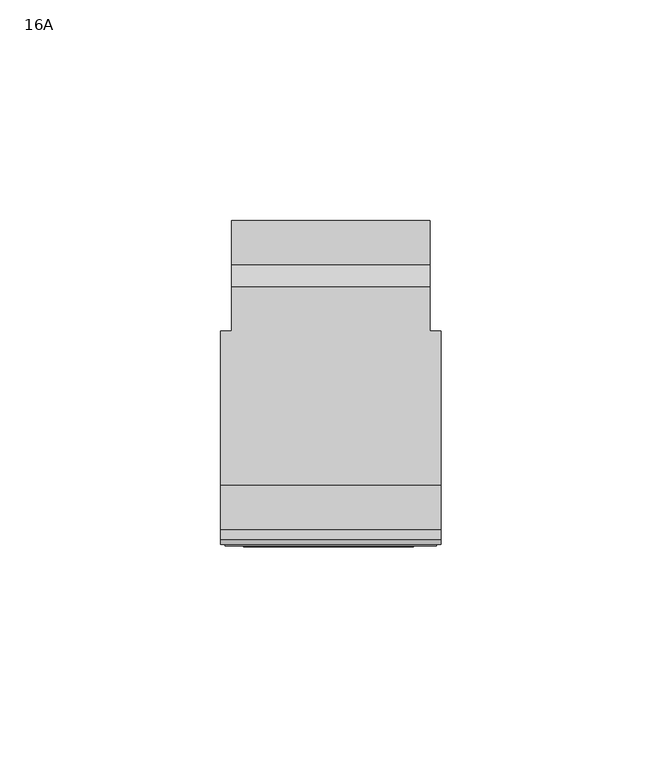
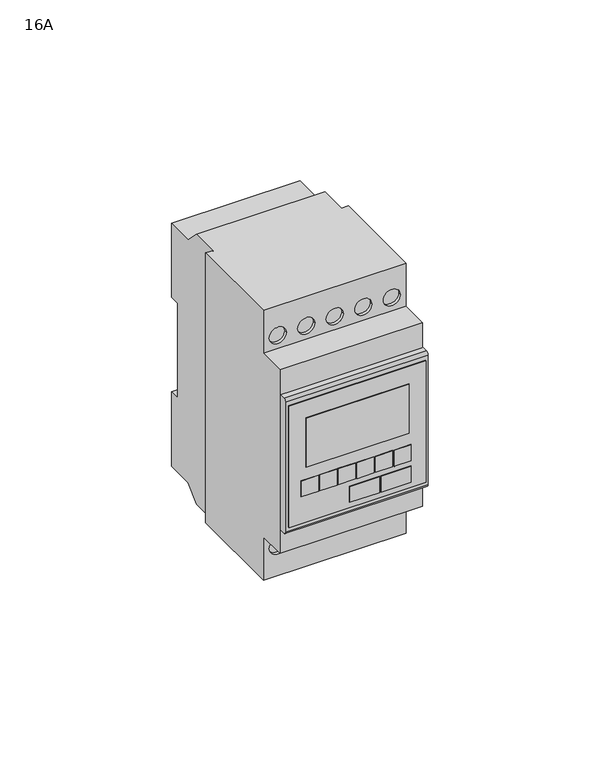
"""IFC4 building model written with IfcOpenShell, lengths in millimetres: proxy geometry, TDM_ЭЛЕКТРОННЫЙ ПРОГРАММИРУЕМЫЙ ТАЙМЕР СЕРИИ ТЭ8А : 16A."""

import ifcopenshell
import ifcopenshell.guid

model = None  # the IFC model being written
_history = None  # IfcOwnerHistory: only IFC2X3 demands one
_inside = {}  # id of a spatial element -> (the spatial element, [elements in it])
_under = {}  # id of a project, library or spatial element -> (it, [spatial elements below it])
_declared = {}  # id of a project -> (the project, [libraries it declares])
_typed = {}  # id of a type object -> (the type object, [elements of that type])
_made_of = {}  # id of a material, layer set ... -> (it, [elements and type objects made of it])


def new_model(schema):
    """Start an empty IFC model of exactly this schema.

    Asked for "IFC4X3", IfcOpenShell would pick the latest addendum, in which some entities
    have other attributes; the version numbers below select the first issue.
    IFC2X3 requires an IfcOwnerHistory on every rooted entity: one is made here for all.
    """
    global model, _history
    if schema == "IFC4X3":
        model = ifcopenshell.file(schema_version=(4, 3, 0, 0))
    else:
        model = ifcopenshell.file(schema=schema)
    _inside.clear()
    _under.clear()
    _declared.clear()
    _typed.clear()
    _made_of.clear()
    _history = None
    if model.schema == "IFC2X3":
        org = make("IfcOrganization", Name="unknown")
        user = make(
            "IfcPersonAndOrganization",
            ThePerson=make("IfcPerson", FamilyName="unknown"),
            TheOrganization=org,
        )
        app = make(
            "IfcApplication",
            ApplicationDeveloper=org,
            Version="unknown",
            ApplicationFullName="unknown",
            ApplicationIdentifier="unknown",
        )
        _history = make(
            "IfcOwnerHistory",
            OwningUser=user,
            OwningApplication=app,
            ChangeAction="ADDED",
            CreationDate=0,
        )
    return model


def make(cls, **values):
    """One entity of the class cls with the attributes given. An attribute that is None is left unset."""
    return model.create_entity(
        cls, **{name: value for name, value in values.items() if value is not None}
    )


def rooted(cls, **values):
    """An entity with a GlobalId (a new one), such as an element, a storey or a relation."""
    return make(cls, GlobalId=ifcopenshell.guid.new(), OwnerHistory=_history, **values)


def si_unit(unit_type, name, prefix=None):
    """IfcSIUnit, for example si_unit("LENGTHUNIT", "METRE", prefix="MILLI")."""
    return make("IfcSIUnit", UnitType=unit_type, Prefix=prefix, Name=name)


def assignment(units):
    """IfcUnitAssignment: the units of a project."""
    return None if units is None else make("IfcUnitAssignment", Units=units)


def point(xyz):
    """IfcCartesianPoint."""
    return None if xyz is None else make("IfcCartesianPoint", Coordinates=xyz)


def direction(xyz):
    """IfcDirection."""
    return None if xyz is None else make("IfcDirection", DirectionRatios=xyz)


def frame(location, z_axis=None, x_axis=None):
    """IfcAxis2Placement3D, a coordinate frame: its origin and axes. An axis left out is left unset."""
    return make(
        "IfcAxis2Placement3D",
        Location=point(location),
        Axis=direction(z_axis),
        RefDirection=direction(x_axis),
    )


def frame_2d(location, x_axis=None):
    """IfcAxis2Placement2D, a coordinate frame in the plane: its origin and x axis."""
    return make(
        "IfcAxis2Placement2D", Location=point(location), RefDirection=direction(x_axis)
    )


def origin():
    """The frame at (0, 0, 0) with its axes left unset."""
    return frame((0.0, 0.0, 0.0))


def place(relative_to, where):
    """IfcLocalPlacement: puts the frame where relative to a parent placement (None: the world)."""
    return make(
        "IfcLocalPlacement", PlacementRelTo=relative_to, RelativePlacement=where
    )


def context(
    kind, dimensions, precision=None, world=None, true_north=None, identifier=None
):
    """IfcGeometricRepresentationContext, for example the 3D "Model" context."""
    return make(
        "IfcGeometricRepresentationContext",
        ContextIdentifier=identifier,
        ContextType=kind,
        CoordinateSpaceDimension=dimensions,
        Precision=precision,
        WorldCoordinateSystem=world,
        TrueNorth=true_north,
    )


def project(units=None, contexts=None):
    """IfcProject with its units and contexts."""
    return rooted(
        "IfcProject",
        Name="project",
        RepresentationContexts=contexts,
        UnitsInContext=assignment(units),
    )


def spatial(cls, under=None, at=None, **own):
    """A site, building, storey or space (cls), placed at a placement, below another one or the project."""
    s = rooted(cls, ObjectPlacement=at, **own)
    if under is not None:
        _under.setdefault(under.id(), (under, []))[1].append(s)
    return s


def polyline(points):
    """IfcPolyline through the points."""
    return make("IfcPolyline", Points=[point(p) for p in points])


def circle_curve(where, radius):
    """IfcCircle in the frame where."""
    return make("IfcCircle", Position=where, Radius=radius)


def trimmed(basis, trim1, trim2, sense, master):
    """IfcTrimmedCurve: the piece of a basis curve between two trims."""
    return make(
        "IfcTrimmedCurve",
        BasisCurve=basis,
        Trim1=trim1,
        Trim2=trim2,
        SenseAgreement=sense,
        MasterRepresentation=master,
    )


def segment(curve, same_sense, transition):
    """IfcCompositeCurveSegment."""
    return make(
        "IfcCompositeCurveSegment",
        Transition=transition,
        SameSense=same_sense,
        ParentCurve=curve,
    )


def composite_curve(segments, self_intersect=None):
    """IfcCompositeCurve: segments joined end to end."""
    return make("IfcCompositeCurve", Segments=segments, SelfIntersect=self_intersect)


def outline(outer, holes=None, kind="AREA"):
    """IfcArbitraryClosedProfileDef: a profile drawn as a closed curve; with holes, ...WithVoids."""
    if holes is None:
        return make("IfcArbitraryClosedProfileDef", ProfileType=kind, OuterCurve=outer)
    return make(
        "IfcArbitraryProfileDefWithVoids",
        ProfileType=kind,
        OuterCurve=outer,
        InnerCurves=holes,
    )


def extrude(swept, where, along, depth):
    """IfcExtrudedAreaSolid: the profile swept, set in the frame where, extruded along a direction by depth."""
    return make(
        "IfcExtrudedAreaSolid",
        SweptArea=swept,
        Position=where,
        ExtrudedDirection=direction(along),
        Depth=depth,
    )


def shape(context_of_items, identifier, shape_type, items):
    """IfcShapeRepresentation: the items that make up one representation, for example the "Body"."""
    return make(
        "IfcShapeRepresentation",
        ContextOfItems=context_of_items,
        RepresentationIdentifier=identifier,
        RepresentationType=shape_type,
        Items=items,
    )


def source(mapping_origin, context_of_items, identifier, shape_type, items):
    """IfcRepresentationMap: a shape defined once, which mapped items show again and again."""
    return make(
        "IfcRepresentationMap",
        MappingOrigin=mapping_origin,
        MappedRepresentation=shape(context_of_items, identifier, shape_type, items),
    )


def transform(
    local_origin,
    x_axis=None,
    y_axis=None,
    z_axis=None,
    scale=None,
    scale2=None,
    scale3=None,
    uniform=True,
):
    """IfcCartesianTransformationOperator3D, or its non-uniform kind. x_axis, y_axis, z_axis: its Axis1, 2, 3."""
    if uniform:
        return make(
            "IfcCartesianTransformationOperator3D",
            Axis1=direction(x_axis),
            Axis2=direction(y_axis),
            LocalOrigin=point(local_origin),
            Scale=scale,
            Axis3=direction(z_axis),
        )
    return make(
        "IfcCartesianTransformationOperator3DnonUniform",
        Axis1=direction(x_axis),
        Axis2=direction(y_axis),
        LocalOrigin=point(local_origin),
        Scale=scale,
        Axis3=direction(z_axis),
        Scale2=scale2,
        Scale3=scale3,
    )


def mapped(mapping_source, mapping_target):
    """IfcMappedItem: shows the shape of a source again, moved by a transform."""
    return make(
        "IfcMappedItem", MappingSource=mapping_source, MappingTarget=mapping_target
    )


def made_of(thing, what):
    """Note that an element or type object is made of a material, layer set ...; save() writes the relation."""
    if what is not None:
        _made_of.setdefault(what.id(), (what, []))[1].append(thing)
    return thing


def element(
    cls,
    number,
    at=None,
    inside=None,
    cuts=None,
    type_object=None,
    material=None,
    context=None,
    identifier="Body",
    shape_type=None,
    held_by="IfcProductDefinitionShape",
    body=None,
    shapes=None,
    **own,
):
    """One element of the class cls, such as IfcWall. Its Tag is "e" and its number.

    at: its placement. inside: the storey or other place that contains it. cuts: it is an
    opening in that element (IfcRelVoidsElement). A single representation is given by context,
    identifier, shape_type and body (its items); several are given by shapes. held_by: the class
    of the entity that holds the representations. save() writes the other relations.
    """
    e = rooted(cls, Tag="e%d" % number, ObjectPlacement=at, **own)
    if body is not None:
        shapes = [shape(context, identifier, shape_type, body)]
    if shapes is not None:
        e.Representation = make(held_by, Representations=shapes)
    if inside is not None:
        _inside.setdefault(inside.id(), (inside, []))[1].append(e)
    if cuts is not None:
        rooted(
            "IfcRelVoidsElement", RelatingBuildingElement=cuts, RelatedOpeningElement=e
        )
    if type_object is not None:
        _typed.setdefault(type_object.id(), (type_object, []))[1].append(e)
    return made_of(e, material)


def aggregate(whole, parts):
    """IfcRelAggregates: a whole, such as a stair, and the parts it consists of."""
    return rooted("IfcRelAggregates", RelatingObject=whole, RelatedObjects=parts)


def save(model, path):
    """Write the relations noted so far, then the file.

    IfcRelAggregates (storeys below a building ...), IfcRelContainedInSpatialStructure (elements
    in a storey), IfcRelDefinesByType, IfcRelAssociatesMaterial and IfcRelDeclares: one each for
    every whole, place, type object, material and project.
    """
    for whole, parts in _under.values():
        aggregate(whole, parts)
    for where, things in _inside.values():
        rooted(
            "IfcRelContainedInSpatialStructure",
            RelatedElements=things,
            RelatingStructure=where,
        )
    for kind, things in _typed.values():
        rooted("IfcRelDefinesByType", RelatedObjects=things, RelatingType=kind)
    for what, things in _made_of.values():
        rooted("IfcRelAssociatesMaterial", RelatedObjects=things, RelatingMaterial=what)
    for by, libraries in _declared.values():
        rooted("IfcRelDeclares", RelatingContext=by, RelatedDefinitions=libraries)
    model.write(path)


def plane_surface(at):
    """IfcPlane: the flat surface through the origin of the frame at, square to its z axis."""
    return make("IfcPlane", Position=at)


def cylinder_surface(at, radius):
    """IfcCylindricalSurface: all points at the distance radius from the z axis of the frame at."""
    return make("IfcCylindricalSurface", Position=at, Radius=radius)


def revolved_surface(curve, axis_point, axis_direction):
    """IfcSurfaceOfRevolution: the curve turned about the line through axis_point along axis_direction."""
    return make(
        "IfcSurfaceOfRevolution",
        SweptCurve=make("IfcArbitraryOpenProfileDef", ProfileType="CURVE", Curve=curve),
        AxisPosition=make("IfcAxis1Placement", Location=point(axis_point), Axis=direction(axis_direction)),
    )


def advanced_brep(points, edges, surfaces, faces):
    """IfcAdvancedBrep: a solid bounded by faces that lie on surfaces and meet in shared edges.

    An edge is (start, end): straight between two places in points (the first is 0);
    or (start, end, curve); or (start, end, curve, False) where it runs against its curve.
    A face is (place in surfaces, loops), or (place, loops, False) where it looks against
    its surface's normal. A loop lists edges by number (the first is 1), with a minus sign
    where the edge is run from its end to its start. The first loop is the outer one.
    """
    corners = [point(p) for p in points]
    vertices = [make("IfcVertexPoint", VertexGeometry=c) for c in corners]
    made = []
    for start, end, *more in edges:
        made.append(
            make(
                "IfcEdgeCurve",
                EdgeStart=vertices[start],
                EdgeEnd=vertices[end],
                EdgeGeometry=more[0] if more else make("IfcPolyline", Points=[corners[start], corners[end]]),
                SameSense=more[1] if len(more) > 1 else True,
            )
        )
    hull = []
    for where, loops, *sense in faces:
        bounds = []
        for j, loop in enumerate(loops):
            ring = [make("IfcOrientedEdge", EdgeElement=made[abs(k) - 1], Orientation=k > 0) for k in loop]
            bounds.append(
                make(
                    "IfcFaceOuterBound" if j == 0 else "IfcFaceBound",
                    Bound=make("IfcEdgeLoop", EdgeList=ring),
                    Orientation=True,
                )
            )
        hull.append(make("IfcAdvancedFace", Bounds=bounds, FaceSurface=surfaces[where], SameSense=sense[0] if sense else True))
    return make("IfcAdvancedBrep", Outer=make("IfcClosedShell", CfsFaces=hull))


def proxy_16a_57aace03(model_context):
    return source(origin(), model_context, "Body", "SolidModel", [
        extrude(outline(composite_curve([segment(trimmed(circle_curve(frame_2d((38.991615, -20.0)), 3.0), [point((38.991615, -23.0))], [point((38.991615, -17.0))], False, "CARTESIAN"), True, "CONTINUOUS"), segment(trimmed(circle_curve(frame_2d((38.991615, -20.0)), 3.0), [point((38.991615, -17.0))], [point((38.991615, -23.0))], False, "CARTESIAN"), True, "CONTINUOUS")], self_intersect=False)), frame((0.0, -22.8714563, 0.0), z_axis=(0.0, 1.0, 0.0), x_axis=(0.0, 0.0, 1.0)), (0.0, 0.0, 1.0), 2.9120848),
        extrude(outline(composite_curve([segment(trimmed(circle_curve(frame_2d((38.991615, -10.0)), 3.0), [point((38.991615, -13.0))], [point((38.991615, -7.0))], False, "CARTESIAN"), True, "CONTINUOUS"), segment(trimmed(circle_curve(frame_2d((38.991615, -10.0)), 3.0), [point((38.991615, -7.0))], [point((38.991615, -13.0))], False, "CARTESIAN"), True, "CONTINUOUS")], self_intersect=False)), frame((0.0, -22.8714563, 0.0), z_axis=(0.0, 1.0, 0.0), x_axis=(0.0, 0.0, 1.0)), (0.0, 0.0, 1.0), 2.9120848),
        extrude(outline(composite_curve([segment(trimmed(circle_curve(frame_2d((38.991615, 0.0)), 3.0), [point((38.991615, -3.0))], [point((38.991615, 3.0))], False, "CARTESIAN"), True, "CONTINUOUS"), segment(trimmed(circle_curve(frame_2d((38.991615, 0.0)), 3.0), [point((38.991615, 3.0))], [point((38.991615, -3.0))], False, "CARTESIAN"), True, "CONTINUOUS")], self_intersect=False)), frame((0.0, -22.8714563, 0.0), z_axis=(0.0, 1.0, 0.0), x_axis=(0.0, 0.0, 1.0)), (0.0, 0.0, 1.0), 2.9120848),
        extrude(outline(composite_curve([segment(trimmed(circle_curve(frame_2d((38.991615, 10.0)), 3.0), [point((38.991615, 7.0))], [point((38.991615, 13.0))], False, "CARTESIAN"), True, "CONTINUOUS"), segment(trimmed(circle_curve(frame_2d((38.991615, 10.0)), 3.0), [point((38.991615, 13.0))], [point((38.991615, 7.0))], False, "CARTESIAN"), True, "CONTINUOUS")], self_intersect=False)), frame((0.0, -22.8714563, 0.0), z_axis=(0.0, 1.0, 0.0), x_axis=(0.0, 0.0, 1.0)), (0.0, 0.0, 1.0), 2.9120848),
        extrude(outline(composite_curve([segment(trimmed(circle_curve(frame_2d((38.991615, 20.0)), 3.0), [point((38.991615, 17.0))], [point((38.991615, 23.0))], False, "CARTESIAN"), True, "CONTINUOUS"), segment(trimmed(circle_curve(frame_2d((38.991615, 20.0)), 3.0), [point((38.991615, 23.0))], [point((38.991615, 17.0))], False, "CARTESIAN"), True, "CONTINUOUS")], self_intersect=False)), frame((0.0, -22.8714563, 0.0), z_axis=(0.0, 1.0, 0.0), x_axis=(0.0, 0.0, 1.0)), (0.0, 0.0, 1.0), 2.9120848),
        extrude(outline(composite_curve([segment(trimmed(circle_curve(frame_2d((-38.991615, 20.0)), 3.0), [point((-38.991615, 23.0))], [point((-38.991615, 17.0))], False, "CARTESIAN"), True, "CONTINUOUS"), segment(trimmed(circle_curve(frame_2d((-38.991615, 20.0)), 3.0), [point((-38.991615, 17.0))], [point((-38.991615, 23.0))], False, "CARTESIAN"), True, "CONTINUOUS")], self_intersect=False)), frame((0.0, -22.8714563, 0.0), z_axis=(0.0, 1.0, 0.0), x_axis=(0.0, 0.0, 1.0)), (0.0, 0.0, 1.0), 2.9120848),
        extrude(outline(composite_curve([segment(trimmed(circle_curve(frame_2d((-38.991615, 10.0)), 3.0), [point((-38.991615, 7.0))], [point((-38.991615, 13.0))], False, "CARTESIAN"), True, "CONTINUOUS"), segment(trimmed(circle_curve(frame_2d((-38.991615, 10.0)), 3.0), [point((-38.991615, 13.0))], [point((-38.991615, 7.0))], False, "CARTESIAN"), True, "CONTINUOUS")], self_intersect=False)), frame((0.0, -22.8714563, 0.0), z_axis=(0.0, 1.0, 0.0), x_axis=(0.0, 0.0, 1.0)), (0.0, 0.0, 1.0), 2.9120848),
        extrude(outline(composite_curve([segment(trimmed(circle_curve(frame_2d((-38.991615, 0.0)), 3.0), [point((-38.991615, -3.0))], [point((-38.991615, 3.0))], False, "CARTESIAN"), True, "CONTINUOUS"), segment(trimmed(circle_curve(frame_2d((-38.991615, 0.0)), 3.0), [point((-38.991615, 3.0))], [point((-38.991615, -3.0))], False, "CARTESIAN"), True, "CONTINUOUS")], self_intersect=False)), frame((0.0, -22.8714563, 0.0), z_axis=(0.0, 1.0, 0.0), x_axis=(0.0, 0.0, 1.0)), (0.0, 0.0, 1.0), 2.9120848),
        extrude(outline(composite_curve([segment(trimmed(circle_curve(frame_2d((-38.991615, -10.0)), 3.0), [point((-38.991615, -13.0))], [point((-38.991615, -7.0))], False, "CARTESIAN"), True, "CONTINUOUS"), segment(trimmed(circle_curve(frame_2d((-38.991615, -10.0)), 3.0), [point((-38.991615, -7.0))], [point((-38.991615, -13.0))], False, "CARTESIAN"), True, "CONTINUOUS")], self_intersect=False)), frame((0.0, -22.8714563, 0.0), z_axis=(0.0, 1.0, 0.0), x_axis=(0.0, 0.0, 1.0)), (0.0, 0.0, 1.0), 2.9120848),
        extrude(outline(composite_curve([segment(trimmed(circle_curve(frame_2d((-38.991615, -20.0)), 3.0), [point((-38.991615, -23.0))], [point((-38.991615, -17.0))], False, "CARTESIAN"), True, "CONTINUOUS"), segment(trimmed(circle_curve(frame_2d((-38.991615, -20.0)), 3.0), [point((-38.991615, -17.0))], [point((-38.991615, -23.0))], False, "CARTESIAN"), True, "CONTINUOUS")], self_intersect=False)), frame((0.0, -22.8714563, 0.0), z_axis=(0.0, 1.0, 0.0), x_axis=(0.0, 0.0, 1.0)), (0.0, 0.0, 1.0), 2.9120848),
        advanced_brep(
        [(22.5, 11.0, -50.0), (22.5, 21.0, -50.0), (22.5, 26.0, -45.0), (22.5, 36.0, -45.0), (22.5, 36.0, -17.5), (22.5, 32.5, -17.5), (22.5, 32.5, 17.5), (22.5, 36.0, 17.5), (22.5, 36.0, 45.0), (22.5, 26.0, 45.0), (22.5, 21.0, 50.0), (22.5, 11.0, 50.0), (-22.5, 11.0, 50.0), (-22.5, 21.0, 50.0), (-22.5, 26.0, 45.0), (-22.5, 36.0, 45.0), (-22.5, 36.0, 17.5), (-22.5, 32.5, 17.5), (-22.5, 32.5, -17.5), (-22.5, 36.0, -17.5), (-22.5, 36.0, -45.0), (-22.5, 26.0, -45.0), (-22.5, 21.0, -50.0), (-22.5, 11.0, -50.0), (-25.0, 11.0, 50.0), (-25.0, 11.0, -50.0), (-25.0, -24.0, -50.0), (-25.0, -24.0, -34.0), (-25.0, -34.0, -34.0), (-25.0, -34.0, 34.0), (-25.0, -24.0, 34.0), (-25.0, -24.0, 50.0), (25.0, 11.0, 50.0), (25.0, -24.0, 50.0), (25.0, -24.0, 34.0), (25.0, -34.0, 34.0), (25.0, -34.0, -34.0), (25.0, -24.0, -34.0), (25.0, -24.0, -50.0), (25.0, 11.0, -50.0), (3.0, -24.0, -38.991615), (-3.0, -24.0, -38.991615), (13.0, -24.0, -38.991615), (7.0, -24.0, -38.991615), (23.0, -24.0, -38.991615), (17.0, -24.0, -38.991615), (-13.0, -24.0, -38.991615), (-7.0, -24.0, -38.991615), (-23.0, -24.0, -38.991615), (-17.0, -24.0, -38.991615), (3.0, -24.0, 38.991615), (-3.0, -24.0, 38.991615), (13.0, -24.0, 38.991615), (7.0, -24.0, 38.991615), (23.0, -24.0, 38.991615), (17.0, -24.0, 38.991615), (-13.0, -24.0, 38.991615), (-7.0, -24.0, 38.991615), (-23.0, -24.0, 38.991615), (-17.0, -24.0, 38.991615), (-3.0, -19.9593715, 38.991615), (3.0, -19.9593715, 38.991615), (7.0, -19.9593715, 38.991615), (13.0, -19.9593715, 38.991615), (17.0, -19.9593715, 38.991615), (23.0, -19.9593715, 38.991615), (-7.0, -19.9593715, 38.991615), (-13.0, -19.9593715, 38.991615), (-17.0, -19.9593715, 38.991615), (-23.0, -19.9593715, 38.991615), (-3.0, -19.9593715, -38.991615), (3.0, -19.9593715, -38.991615), (7.0, -19.9593715, -38.991615), (13.0, -19.9593715, -38.991615), (17.0, -19.9593715, -38.991615), (23.0, -19.9593715, -38.991615), (-7.0, -19.9593715, -38.991615), (-13.0, -19.9593715, -38.991615), (-17.0, -19.9593715, -38.991615), (-23.0, -19.9593715, -38.991615)],
        [
            (0, 1),
            (1, 2),
            (2, 3),
            (3, 4),
            (4, 5),
            (5, 6),
            (6, 7),
            (7, 8),
            (8, 9),
            (9, 10),
            (10, 11),
            (11, 0),
            (12, 13),
            (13, 14),
            (14, 15),
            (15, 16),
            (16, 17),
            (17, 18),
            (18, 19),
            (19, 20),
            (20, 21),
            (21, 22),
            (22, 23),
            (23, 12),
            (24, 25),
            (25, 26),
            (26, 27),
            (27, 28),
            (28, 29),
            (29, 30),
            (30, 31),
            (31, 24),
            (32, 33),
            (33, 34),
            (34, 35),
            (35, 36),
            (36, 37),
            (37, 38),
            (38, 39),
            (39, 32),
            (0, 39),
            (38, 26),
            (25, 23),
            (22, 1),
            (21, 2),
            (20, 3),
            (19, 4),
            (18, 5),
            (17, 6),
            (16, 7),
            (15, 8),
            (14, 9),
            (13, 10),
            (12, 24),
            (31, 33),
            (32, 11),
            (37, 27),
            (40, 41, circle_curve(frame((0.0, -24.0, -38.991615), z_axis=(0.0, 1.0, 0.0), x_axis=(1.0, 0.0, 0.0)), 3.0)),
            (41, 40, circle_curve(frame((0.0, -24.0, -38.991615), z_axis=(0.0, 1.0, 0.0), x_axis=(1.0, 0.0, 0.0)), 3.0)),
            (42, 43, circle_curve(frame((10.0, -24.0, -38.991615), z_axis=(0.0, 1.0, 0.0), x_axis=(1.0, 0.0, 0.0)), 3.0)),
            (43, 42, circle_curve(frame((10.0, -24.0, -38.991615), z_axis=(0.0, 1.0, 0.0), x_axis=(1.0, 0.0, 0.0)), 3.0)),
            (44, 45, circle_curve(frame((20.0, -24.0, -38.991615), z_axis=(0.0, 1.0, 0.0), x_axis=(1.0, 0.0, 0.0)), 3.0)),
            (45, 44, circle_curve(frame((20.0, -24.0, -38.991615), z_axis=(0.0, 1.0, 0.0), x_axis=(1.0, 0.0, 0.0)), 3.0)),
            (46, 47, circle_curve(frame((-10.0, -24.0, -38.991615), z_axis=(0.0, 1.0, 0.0), x_axis=(-1.0, 0.0, 0.0)), 3.0)),
            (47, 46, circle_curve(frame((-10.0, -24.0, -38.991615), z_axis=(0.0, 1.0, 0.0), x_axis=(-1.0, 0.0, 0.0)), 3.0)),
            (48, 49, circle_curve(frame((-20.0, -24.0, -38.991615), z_axis=(0.0, 1.0, 0.0), x_axis=(-1.0, 0.0, 0.0)), 3.0)),
            (49, 48, circle_curve(frame((-20.0, -24.0, -38.991615), z_axis=(0.0, 1.0, 0.0), x_axis=(-1.0, 0.0, 0.0)), 3.0)),
            (36, 28),
            (35, 29),
            (34, 30),
            (50, 51, circle_curve(frame((0.0, -24.0, 38.991615), z_axis=(0.0, 1.0, 0.0), x_axis=(1.0, 0.0, 0.0)), 3.0)),
            (51, 50, circle_curve(frame((0.0, -24.0, 38.991615), z_axis=(0.0, 1.0, 0.0), x_axis=(1.0, 0.0, 0.0)), 3.0)),
            (52, 53, circle_curve(frame((10.0, -24.0, 38.991615), z_axis=(0.0, 1.0, 0.0), x_axis=(1.0, 0.0, 0.0)), 3.0)),
            (53, 52, circle_curve(frame((10.0, -24.0, 38.991615), z_axis=(0.0, 1.0, 0.0), x_axis=(1.0, 0.0, 0.0)), 3.0)),
            (54, 55, circle_curve(frame((20.0, -24.0, 38.991615), z_axis=(0.0, 1.0, 0.0), x_axis=(1.0, 0.0, 0.0)), 3.0)),
            (55, 54, circle_curve(frame((20.0, -24.0, 38.991615), z_axis=(0.0, 1.0, 0.0), x_axis=(1.0, 0.0, 0.0)), 3.0)),
            (56, 57, circle_curve(frame((-10.0, -24.0, 38.991615), z_axis=(0.0, 1.0, 0.0), x_axis=(-1.0, 0.0, 0.0)), 3.0)),
            (57, 56, circle_curve(frame((-10.0, -24.0, 38.991615), z_axis=(0.0, 1.0, 0.0), x_axis=(-1.0, 0.0, 0.0)), 3.0)),
            (58, 59, circle_curve(frame((-20.0, -24.0, 38.991615), z_axis=(0.0, 1.0, 0.0), x_axis=(-1.0, 0.0, 0.0)), 3.0)),
            (59, 58, circle_curve(frame((-20.0, -24.0, 38.991615), z_axis=(0.0, 1.0, 0.0), x_axis=(-1.0, 0.0, 0.0)), 3.0)),
            (60, 61, circle_curve(frame((0.0, -19.9593715, 38.991615), z_axis=(0.0, -1.0, 0.0), x_axis=(1.0, 0.0, 0.0)), 3.0)),
            (61, 60, circle_curve(frame((0.0, -19.9593715, 38.991615), z_axis=(0.0, -1.0, 0.0), x_axis=(1.0, 0.0, 0.0)), 3.0)),
            (62, 63, circle_curve(frame((10.0, -19.9593715, 38.991615), z_axis=(0.0, -1.0, 0.0), x_axis=(1.0, 0.0, 0.0)), 3.0)),
            (63, 62, circle_curve(frame((10.0, -19.9593715, 38.991615), z_axis=(0.0, -1.0, 0.0), x_axis=(1.0, 0.0, 0.0)), 3.0)),
            (64, 65, circle_curve(frame((20.0, -19.9593715, 38.991615), z_axis=(0.0, -1.0, 0.0), x_axis=(1.0, 0.0, 0.0)), 3.0)),
            (65, 64, circle_curve(frame((20.0, -19.9593715, 38.991615), z_axis=(0.0, -1.0, 0.0), x_axis=(1.0, 0.0, 0.0)), 3.0)),
            (66, 67, circle_curve(frame((-10.0, -19.9593715, 38.991615), z_axis=(0.0, -1.0, 0.0), x_axis=(-1.0, 0.0, 0.0)), 3.0)),
            (67, 66, circle_curve(frame((-10.0, -19.9593715, 38.991615), z_axis=(0.0, -1.0, 0.0), x_axis=(-1.0, 0.0, 0.0)), 3.0)),
            (68, 69, circle_curve(frame((-20.0, -19.9593715, 38.991615), z_axis=(0.0, -1.0, 0.0), x_axis=(-1.0, 0.0, 0.0)), 3.0)),
            (69, 68, circle_curve(frame((-20.0, -19.9593715, 38.991615), z_axis=(0.0, -1.0, 0.0), x_axis=(-1.0, 0.0, 0.0)), 3.0)),
            (70, 71, circle_curve(frame((0.0, -19.9593715, -38.991615), z_axis=(0.0, -1.0, 0.0), x_axis=(1.0, 0.0, 0.0)), 3.0)),
            (71, 70, circle_curve(frame((0.0, -19.9593715, -38.991615), z_axis=(0.0, -1.0, 0.0), x_axis=(1.0, 0.0, 0.0)), 3.0)),
            (72, 73, circle_curve(frame((10.0, -19.9593715, -38.991615), z_axis=(0.0, -1.0, 0.0), x_axis=(1.0, 0.0, 0.0)), 3.0)),
            (73, 72, circle_curve(frame((10.0, -19.9593715, -38.991615), z_axis=(0.0, -1.0, 0.0), x_axis=(1.0, 0.0, 0.0)), 3.0)),
            (74, 75, circle_curve(frame((20.0, -19.9593715, -38.991615), z_axis=(0.0, -1.0, 0.0), x_axis=(1.0, 0.0, 0.0)), 3.0)),
            (75, 74, circle_curve(frame((20.0, -19.9593715, -38.991615), z_axis=(0.0, -1.0, 0.0), x_axis=(1.0, 0.0, 0.0)), 3.0)),
            (76, 77, circle_curve(frame((-10.0, -19.9593715, -38.991615), z_axis=(0.0, -1.0, 0.0), x_axis=(-1.0, 0.0, 0.0)), 3.0)),
            (77, 76, circle_curve(frame((-10.0, -19.9593715, -38.991615), z_axis=(0.0, -1.0, 0.0), x_axis=(-1.0, 0.0, 0.0)), 3.0)),
            (78, 79, circle_curve(frame((-20.0, -19.9593715, -38.991615), z_axis=(0.0, -1.0, 0.0), x_axis=(-1.0, 0.0, 0.0)), 3.0)),
            (79, 78, circle_curve(frame((-20.0, -19.9593715, -38.991615), z_axis=(0.0, -1.0, 0.0), x_axis=(-1.0, 0.0, 0.0)), 3.0)),
            (60, 51),
            (50, 61),
            (62, 53),
            (52, 63),
            (64, 55),
            (54, 65),
            (66, 57),
            (56, 67),
            (68, 59),
            (58, 69),
            (70, 41),
            (40, 71),
            (72, 43),
            (42, 73),
            (74, 45),
            (44, 75),
            (76, 47),
            (46, 77),
            (78, 49),
            (48, 79),
        ],
        [
            plane_surface(frame((22.5, 11.0, 50.0), z_axis=(1.0, 0.0, 0.0), x_axis=(0.0, 0.0, -1.0))),
            plane_surface(frame((-22.5, 11.0, 50.0), z_axis=(-1.0, 0.0, 0.0), x_axis=(0.0, 0.0, 1.0))),
            plane_surface(frame((-25.0, 11.0, -50.0), z_axis=(-1.0, 0.0, 0.0), x_axis=(0.0, 0.0, -1.0))),
            plane_surface(frame((25.0, 11.0, -50.0), z_axis=(1.0, 0.0, 0.0), x_axis=(0.0, 0.0, 1.0))),
            plane_surface(frame((22.5, 11.0, -50.0), z_axis=(0.0, 0.0, -1.0), x_axis=(-1.0, 0.0, 0.0))),
            plane_surface(frame((22.5, 21.0, -50.0), z_axis=(0.0, 0.7071067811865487, -0.7071067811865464), x_axis=(-1.0, 0.0, 0.0))),
            plane_surface(frame((22.5, 26.0, -45.0), z_axis=(0.0, 0.0, -1.0), x_axis=(-1.0, 0.0, 0.0))),
            plane_surface(frame((22.5, 36.0, -45.0), z_axis=(0.0, 1.0, 0.0), x_axis=(-1.0, 0.0, 0.0))),
            plane_surface(frame((22.5, 36.0, -17.5), z_axis=(0.0, 0.0, 1.0), x_axis=(-1.0, 0.0, 0.0))),
            plane_surface(frame((22.5, 32.5, -17.5), z_axis=(0.0, 1.0, 0.0), x_axis=(-1.0, 0.0, 0.0))),
            plane_surface(frame((22.5, 32.5, 17.5), z_axis=(0.0, 0.0, -1.0), x_axis=(-1.0, 0.0, 0.0))),
            plane_surface(frame((22.5, 36.0, 17.5), z_axis=(0.0, 1.0, 0.0), x_axis=(-1.0, 0.0, 0.0))),
            plane_surface(frame((22.5, 36.0, 45.0), z_axis=(0.0, 0.0, 1.0), x_axis=(-1.0, 0.0, 0.0))),
            plane_surface(frame((22.5, 26.0, 45.0), z_axis=(0.0, 0.7071067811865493, 0.7071067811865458), x_axis=(-1.0, 0.0, 0.0))),
            plane_surface(frame((22.5, 21.0, 50.0), z_axis=(0.0, 0.0, 1.0), x_axis=(-1.0, 0.0, 0.0))),
            plane_surface(frame((-25.0, 11.0, 50.0), z_axis=(0.0, 1.0, 0.0), x_axis=(1.0, 0.0, 0.0))),
            plane_surface(frame((-25.0, -24.0, -50.0), z_axis=(0.0, -1.0, 0.0), x_axis=(1.0, 0.0, 0.0))),
            plane_surface(frame((-25.0, -24.0, -34.0), z_axis=(0.0, 0.0, -1.0), x_axis=(1.0, 0.0, 0.0))),
            plane_surface(frame((-25.0, -34.0, -34.0), z_axis=(0.0, -1.0, 0.0), x_axis=(1.0, 0.0, 0.0))),
            plane_surface(frame((-25.0, -34.0, 34.0), z_axis=(0.0, 0.0, 1.0), x_axis=(1.0, 0.0, 0.0))),
            plane_surface(frame((-25.0, -24.0, 34.0), z_axis=(0.0, -1.0, 0.0), x_axis=(1.0, 0.0, 0.0))),
            plane_surface(frame((3.0, -19.9593715, 38.991615), z_axis=(0.0, -1.0, 0.0), x_axis=(0.0, 0.0, -1.0))),
            revolved_surface(polyline([(3.0, -24.0, 38.991615), (3.0, -19.9593715, 38.991615)]), (0.0, -19.9593715, 38.991615), (0.0, -1.0, 0.0)),
            revolved_surface(polyline([(13.0, -24.0, 38.991615), (13.0, -19.9593715, 38.991615)]), (10.0, 0.0, 38.991615), (0.0, -1.0, 0.0)),
            revolved_surface(polyline([(23.0, -24.0, 38.991615), (23.0, -19.9593715, 38.991615)]), (20.0, 0.0, 38.991615), (0.0, -1.0, 0.0)),
            revolved_surface(polyline([(-13.0, -24.0, 38.991615), (-13.0, -19.9593715, 38.991615)]), (-10.0, 0.0, 38.991615), (0.0, -1.0, 0.0)),
            revolved_surface(polyline([(-23.0, -24.0, 38.991615), (-23.0, -19.9593715, 38.991615)]), (-20.0, 0.0, 38.991615), (0.0, -1.0, 0.0)),
            revolved_surface(polyline([(3.0, -24.0, -38.991615), (3.0, -19.9593715, -38.991615)]), (0.0, 0.0, -38.991615), (0.0, -1.0, 0.0)),
            revolved_surface(polyline([(13.0, -24.0, -38.991615), (13.0, -19.9593715, -38.991615)]), (10.0, 0.0, -38.991615), (0.0, -1.0, 0.0)),
            revolved_surface(polyline([(23.0, -24.0, -38.991615), (23.0, -19.9593715, -38.991615)]), (20.0, 0.0, -38.991615), (0.0, -1.0, 0.0)),
            revolved_surface(polyline([(-13.0, -24.0, -38.991615), (-13.0, -19.9593715, -38.991615)]), (-10.0, 0.0, -38.991615), (0.0, -1.0, 0.0)),
            revolved_surface(polyline([(-23.0, -24.0, -38.991615), (-23.0, -19.9593715, -38.991615)]), (-20.0, 0.0, -38.991615), (0.0, -1.0, 0.0)),
        ],
        [
            (0, [[1, 2, 3, 4, 5, 6, 7, 8, 9, 10, 11, 12]]),
            (1, [[13, 14, 15, 16, 17, 18, 19, 20, 21, 22, 23, 24]]),
            (2, [[25, 26, 27, 28, 29, 30, 31, 32]]),
            (3, [[33, 34, 35, 36, 37, 38, 39, 40]]),
            (4, [[-1, 41, -39, 42, -26, 43, -23, 44]]),
            (5, [[-2, -44, -22, 45]]),
            (6, [[-3, -45, -21, 46]]),
            (7, [[-4, -46, -20, 47]]),
            (8, [[-5, -47, -19, 48]]),
            (9, [[-6, -48, -18, 49]]),
            (10, [[-7, -49, -17, 50]]),
            (11, [[-8, -50, -16, 51]]),
            (12, [[-9, -51, -15, 52]]),
            (13, [[-10, -52, -14, 53]]),
            (14, [[-11, -53, -13, 54, -32, 55, -33, 56]]),
            (15, [[-25, -54, -24, -43]]),
            (15, [[-40, -41, -12, -56]]),
            (16, [[-27, -42, -38, 57], [58, 59], [60, 61], [62, 63], [64, 65], [66, 67]]),
            (17, [[-28, -57, -37, 68]]),
            (18, [[-29, -68, -36, 69]]),
            (19, [[-30, -69, -35, 70]]),
            (20, [[-31, -70, -34, -55], [71, 72], [73, 74], [75, 76], [77, 78], [79, 80]]),
            (21, [[81, 82]]),
            (21, [[83, 84]]),
            (21, [[85, 86]]),
            (21, [[87, 88]]),
            (21, [[89, 90]]),
            (21, [[91, 92]]),
            (21, [[93, 94]]),
            (21, [[95, 96]]),
            (21, [[97, 98]]),
            (21, [[99, 100]]),
            (22, [[-81, 101, -71, 102]]),
            (22, [[-82, -102, -72, -101]]),
            (23, [[-83, 103, -73, 104]]),
            (23, [[-84, -104, -74, -103]]),
            (24, [[-85, 105, -75, 106]]),
            (24, [[-86, -106, -76, -105]]),
            (25, [[-87, 107, -77, 108]]),
            (25, [[-88, -108, -78, -107]]),
            (26, [[-89, 109, -79, 110]]),
            (26, [[-90, -110, -80, -109]]),
            (27, [[-91, 111, -58, 112]]),
            (27, [[-92, -112, -59, -111]]),
            (28, [[-93, 113, -60, 114]]),
            (28, [[-94, -114, -61, -113]]),
            (29, [[-95, 115, -62, 116]]),
            (29, [[-96, -116, -63, -115]]),
            (30, [[-97, 117, -64, 118]]),
            (30, [[-98, -118, -65, -117]]),
            (31, [[-99, 119, -66, 120]]),
            (31, [[-100, -120, -67, -119]]),
        ],
    ),
        advanced_brep(
        [(-25.0, -34.0, 25.0), (-25.0, -34.0, -25.0), (-25.0, -36.4012318, -25.0), (-25.0, -37.4012318, -24.0), (-25.0, -37.4012318, 24.0), (-25.0, -36.4012318, 25.0), (25.0, -34.0, 25.0), (25.0, -36.4012318, 25.0), (25.0, -37.4012318, 24.0), (25.0, -37.4012318, -24.0), (25.0, -36.4012318, -25.0), (25.0, -34.0, -25.0), (24.0, -37.7818014, 22.5), (-24.0, -37.7818014, 22.5), (-24.0, -37.7818014, -22.5), (24.0, -37.7818014, -22.5), (-6.75, -37.7818014, -12.6110725), (-6.75, -37.7818014, -6.6110725), (-0.75, -37.7818014, -6.6110725), (-0.75, -37.7818014, -12.6110725), (-13.25, -37.7818014, -12.6110725), (-13.25, -37.7818014, -6.6110725), (-7.25, -37.7818014, -6.6110725), (-7.25, -37.7818014, -12.6110725), (-19.75, -37.7818014, -12.6110725), (-19.75, -37.7818014, -6.6110725), (-13.75, -37.7818014, -6.6110725), (-13.75, -37.7818014, -12.6110725), (-0.25, -37.7818014, -6.6110725), (5.75, -37.7818014, -6.6110725), (5.75, -37.7818014, -12.6110725), (-0.25, -37.7818014, -12.6110725), (6.25, -37.7818014, -6.6110725), (12.25, -37.7818014, -6.6110725), (12.25, -37.7818014, -12.6110725), (6.25, -37.7818014, -12.6110725), (12.75, -37.7818014, -6.6110725), (18.75, -37.7818014, -6.6110725), (18.75, -37.7818014, -12.6110725), (12.75, -37.7818014, -12.6110725), (8.25, -37.7818014, -14.6110725), (18.75, -37.7818014, -14.6110725), (18.75, -37.7818014, -20.6110725), (8.25, -37.7818014, -20.6110725), (-2.75, -37.7818014, -14.6110725), (7.75, -37.7818014, -14.6110725), (7.75, -37.7818014, -20.6110725), (-2.75, -37.7818014, -20.6110725), (-18.0, -37.7818014, 16.0149518), (18.0, -37.7818014, 16.0149518), (18.0, -37.7818014, -2.1537566), (-18.0, -37.7818014, -2.1537566), (24.0, -37.4012318, 22.5), (-24.0, -37.4012318, 22.5), (-24.0, -37.4012318, -22.5), (24.0, -37.4012318, -22.5), (-6.75, -38.0, -6.6110725), (-6.75, -38.0, -12.6110725), (-0.75, -38.0, -12.6110725), (-0.75, -38.0, -6.6110725), (-13.25, -38.0, -6.6110725), (-13.25, -38.0, -12.6110725), (-7.25, -38.0, -12.6110725), (-7.25, -38.0, -6.6110725), (-19.75, -38.0, -6.6110725), (-19.75, -38.0, -12.6110725), (-13.75, -38.0, -12.6110725), (-13.75, -38.0, -6.6110725), (5.75, -38.0, -6.6110725), (-0.25, -38.0, -6.6110725), (-0.25, -38.0, -12.6110725), (5.75, -38.0, -12.6110725), (12.25, -38.0, -6.6110725), (6.25, -38.0, -6.6110725), (6.25, -38.0, -12.6110725), (12.25, -38.0, -12.6110725), (18.75, -38.0, -6.6110725), (12.75, -38.0, -6.6110725), (12.75, -38.0, -12.6110725), (18.75, -38.0, -12.6110725), (18.75, -38.0, -14.6110725), (8.25, -38.0, -14.6110725), (8.25, -38.0, -20.6110725), (18.75, -38.0, -20.6110725), (7.75, -38.0, -14.6110725), (-2.75, -38.0, -14.6110725), (-2.75, -38.0, -20.6110725), (7.75, -38.0, -20.6110725), (18.0, -38.0, 16.0149518), (-18.0, -38.0, 16.0149518), (-18.0, -38.0, -2.1537566), (18.0, -38.0, -2.1537566)],
        [
            (0, 1),
            (1, 2),
            (2, 3, circle_curve(frame((-25.0, -36.4012318, -24.0), z_axis=(-1.0, 0.0, 0.0), x_axis=(0.0, -1.0, 0.0)), 1.0)),
            (3, 4),
            (4, 5, circle_curve(frame((-25.0, -36.4012318, 24.0), z_axis=(-1.0, 0.0, 0.0), x_axis=(0.0, -1.0, 0.0)), 1.0)),
            (5, 0),
            (6, 7),
            (7, 8, circle_curve(frame((25.0, -36.4012318, 24.0), z_axis=(1.0, 0.0, 0.0), x_axis=(0.0, -1.0, 0.0)), 1.0)),
            (8, 9),
            (9, 10, circle_curve(frame((25.0, -36.4012318, -24.0), z_axis=(1.0, 0.0, 0.0), x_axis=(0.0, -1.0, 0.0)), 1.0)),
            (10, 11),
            (11, 6),
            (12, 13),
            (13, 14),
            (14, 15),
            (15, 12),
            (16, 17),
            (17, 18),
            (18, 19),
            (19, 16),
            (20, 21),
            (21, 22),
            (22, 23),
            (23, 20),
            (24, 25),
            (25, 26),
            (26, 27),
            (27, 24),
            (28, 29),
            (29, 30),
            (30, 31),
            (31, 28),
            (32, 33),
            (33, 34),
            (34, 35),
            (35, 32),
            (36, 37),
            (37, 38),
            (38, 39),
            (39, 36),
            (40, 41),
            (41, 42),
            (42, 43),
            (43, 40),
            (44, 45),
            (45, 46),
            (46, 47),
            (47, 44),
            (48, 49),
            (49, 50),
            (50, 51),
            (51, 48),
            (12, 52),
            (52, 53),
            (53, 13),
            (53, 54),
            (54, 14),
            (54, 55),
            (55, 15),
            (55, 52),
            (56, 57),
            (57, 58),
            (58, 59),
            (59, 56),
            (60, 61),
            (61, 62),
            (62, 63),
            (63, 60),
            (64, 65),
            (65, 66),
            (66, 67),
            (67, 64),
            (68, 69),
            (69, 70),
            (70, 71),
            (71, 68),
            (72, 73),
            (73, 74),
            (74, 75),
            (75, 72),
            (76, 77),
            (77, 78),
            (78, 79),
            (79, 76),
            (80, 81),
            (81, 82),
            (82, 83),
            (83, 80),
            (84, 85),
            (85, 86),
            (86, 87),
            (87, 84),
            (88, 89),
            (89, 90),
            (90, 91),
            (91, 88),
            (56, 17),
            (16, 57),
            (19, 58),
            (18, 59),
            (60, 21),
            (20, 61),
            (23, 62),
            (22, 63),
            (64, 25),
            (24, 65),
            (27, 66),
            (26, 67),
            (68, 29),
            (28, 69),
            (31, 70),
            (30, 71),
            (72, 33),
            (32, 73),
            (35, 74),
            (34, 75),
            (76, 37),
            (36, 77),
            (39, 78),
            (38, 79),
            (80, 41),
            (40, 81),
            (43, 82),
            (42, 83),
            (84, 45),
            (44, 85),
            (47, 86),
            (46, 87),
            (88, 49),
            (48, 89),
            (51, 90),
            (50, 91),
            (0, 6),
            (11, 1),
            (10, 2),
            (9, 3),
            (8, 4),
            (7, 5),
        ],
        [
            plane_surface(frame((-25.0, -34.0, -34.0), z_axis=(-1.0, 0.0, 0.0), x_axis=(0.0, 0.0, -1.0))),
            plane_surface(frame((25.0, -34.0, -34.0), z_axis=(1.0, 0.0, 0.0), x_axis=(0.0, 0.0, 1.0))),
            plane_surface(frame((-24.0, -37.7818014, 22.5), z_axis=(0.0, -1.0, 0.0), x_axis=(-1.0, 0.0, 0.0))),
            plane_surface(frame((24.0, -37.7818014, 22.5), z_axis=(0.0, 0.0, 1.0), x_axis=(0.0, 1.0, 0.0))),
            plane_surface(frame((-24.0, -37.7818014, 22.5), z_axis=(-1.0, 0.0, 0.0), x_axis=(0.0, 1.0, 0.0))),
            plane_surface(frame((-24.0, -37.7818014, -22.5), z_axis=(0.0, 0.0, -1.0), x_axis=(0.0, 1.0, 0.0))),
            plane_surface(frame((24.0, -37.7818014, -22.5), z_axis=(1.0, 0.0, 0.0), x_axis=(0.0, 1.0, 0.0))),
            plane_surface(frame((-6.75, -38.0, -6.6110725), z_axis=(0.0, -1.0, 0.0), x_axis=(0.0, 0.0, -1.0))),
            plane_surface(frame((-6.75, -38.0, -6.6110725), z_axis=(-1.0, 0.0, 0.0), x_axis=(0.0, 1.0, 0.0))),
            plane_surface(frame((-6.75, -38.0, -12.6110725), z_axis=(0.0, 0.0, -1.0), x_axis=(0.0, 1.0, 0.0))),
            plane_surface(frame((-0.75, -38.0, -12.6110725), z_axis=(1.0, 0.0, 0.0), x_axis=(0.0, 1.0, 0.0))),
            plane_surface(frame((-0.75, -38.0, -6.6110725), z_axis=(0.0, 0.0, 1.0), x_axis=(0.0, 1.0, 0.0))),
            plane_surface(frame((-13.25, -38.0, -6.6110725), z_axis=(-1.0, 0.0, 0.0), x_axis=(0.0, 1.0, 0.0))),
            plane_surface(frame((-13.25, -38.0, -12.6110725), z_axis=(0.0, 0.0, -1.0), x_axis=(0.0, 1.0, 0.0))),
            plane_surface(frame((-7.25, -38.0, -12.6110725), z_axis=(1.0, 0.0, 0.0), x_axis=(0.0, 1.0, 0.0))),
            plane_surface(frame((-7.25, -38.0, -6.6110725), z_axis=(0.0, 0.0, 1.0), x_axis=(0.0, 1.0, 0.0))),
            plane_surface(frame((-19.75, -38.0, -6.6110725), z_axis=(-1.0, 0.0, 0.0), x_axis=(0.0, 1.0, 0.0))),
            plane_surface(frame((-19.75, -38.0, -12.6110725), z_axis=(0.0, 0.0, -1.0), x_axis=(0.0, 1.0, 0.0))),
            plane_surface(frame((-13.75, -38.0, -12.6110725), z_axis=(1.0, 0.0, 0.0), x_axis=(0.0, 1.0, 0.0))),
            plane_surface(frame((-13.75, -38.0, -6.6110725), z_axis=(0.0, 0.0, 1.0), x_axis=(0.0, 1.0, 0.0))),
            plane_surface(frame((5.75, -38.0, -6.6110725), z_axis=(0.0, 0.0, 1.0), x_axis=(0.0, 1.0, 0.0))),
            plane_surface(frame((-0.25, -38.0, -6.6110725), z_axis=(-1.0, 0.0, 0.0), x_axis=(0.0, 1.0, 0.0))),
            plane_surface(frame((-0.25, -38.0, -12.6110725), z_axis=(0.0, 0.0, -1.0), x_axis=(0.0, 1.0, 0.0))),
            plane_surface(frame((5.75, -38.0, -12.6110725), z_axis=(1.0, 0.0, 0.0), x_axis=(0.0, 1.0, 0.0))),
            plane_surface(frame((12.25, -38.0, -6.6110725), z_axis=(0.0, 0.0, 1.0), x_axis=(0.0, 1.0, 0.0))),
            plane_surface(frame((6.25, -38.0, -6.6110725), z_axis=(-1.0, 0.0, 0.0), x_axis=(0.0, 1.0, 0.0))),
            plane_surface(frame((6.25, -38.0, -12.6110725), z_axis=(0.0, 0.0, -1.0), x_axis=(0.0, 1.0, 0.0))),
            plane_surface(frame((12.25, -38.0, -12.6110725), z_axis=(1.0, 0.0, 0.0), x_axis=(0.0, 1.0, 0.0))),
            plane_surface(frame((18.75, -38.0, -6.6110725), z_axis=(0.0, 0.0, 1.0), x_axis=(0.0, 1.0, 0.0))),
            plane_surface(frame((12.75, -38.0, -6.6110725), z_axis=(-1.0, 0.0, 0.0), x_axis=(0.0, 1.0, 0.0))),
            plane_surface(frame((12.75, -38.0, -12.6110725), z_axis=(0.0, 0.0, -1.0), x_axis=(0.0, 1.0, 0.0))),
            plane_surface(frame((18.75, -38.0, -12.6110725), z_axis=(1.0, 0.0, 0.0), x_axis=(0.0, 1.0, 0.0))),
            plane_surface(frame((18.75, -38.0, -14.6110725), z_axis=(0.0, 0.0, 1.0), x_axis=(0.0, 1.0, 0.0))),
            plane_surface(frame((8.25, -38.0, -14.6110725), z_axis=(-1.0, 0.0, 0.0), x_axis=(0.0, 1.0, 0.0))),
            plane_surface(frame((8.25, -38.0, -20.6110725), z_axis=(0.0, 0.0, -1.0), x_axis=(0.0, 1.0, 0.0))),
            plane_surface(frame((18.75, -38.0, -20.6110725), z_axis=(1.0, 0.0, 0.0), x_axis=(0.0, 1.0, 0.0))),
            plane_surface(frame((7.75, -38.0, -14.6110725), z_axis=(0.0, 0.0, 1.0), x_axis=(0.0, 1.0, 0.0))),
            plane_surface(frame((-2.75, -38.0, -14.6110725), z_axis=(-1.0, 0.0, 0.0), x_axis=(0.0, 1.0, 0.0))),
            plane_surface(frame((-2.75, -38.0, -20.6110725), z_axis=(0.0, 0.0, -1.0), x_axis=(0.0, 1.0, 0.0))),
            plane_surface(frame((7.75, -38.0, -20.6110725), z_axis=(1.0, 0.0, 0.0), x_axis=(0.0, 1.0, 0.0))),
            plane_surface(frame((18.0, -38.0, 16.0149518), z_axis=(0.0, 0.0, 1.0), x_axis=(0.0, 1.0, 0.0))),
            plane_surface(frame((-18.0, -38.0, 16.0149518), z_axis=(-1.0, 0.0, 0.0), x_axis=(0.0, 1.0, 0.0))),
            plane_surface(frame((-18.0, -38.0, -2.1537566), z_axis=(0.0, 0.0, -1.0), x_axis=(0.0, 1.0, 0.0))),
            plane_surface(frame((18.0, -38.0, -2.1537566), z_axis=(1.0, 0.0, 0.0), x_axis=(0.0, 1.0, 0.0))),
            plane_surface(frame((-25.0, -34.0, 25.0), z_axis=(0.0, 1.0, 0.0), x_axis=(1.0, 0.0, 0.0))),
            plane_surface(frame((-25.0, -34.0, -25.0), z_axis=(0.0, 0.0, -1.0), x_axis=(1.0, 0.0, 0.0))),
            cylinder_surface(frame((25.0, -36.4012318, -24.0), z_axis=(-1.0, 0.0, 0.0), x_axis=(0.0, -1.0, 0.0)), 1.0),
            plane_surface(frame((-25.0, -37.4012318, -24.0), z_axis=(0.0, -1.0, 0.0), x_axis=(1.0, 0.0, 0.0))),
            cylinder_surface(frame((25.0, -36.4012318, 24.0), z_axis=(-1.0, 0.0, 0.0), x_axis=(0.0, -1.0, 0.0)), 1.0),
            plane_surface(frame((-25.0, -36.4012318, 25.0), z_axis=(0.0, 0.0, 1.0), x_axis=(1.0, 0.0, 0.0))),
        ],
        [
            (0, [[1, 2, 3, 4, 5, 6]]),
            (1, [[7, 8, 9, 10, 11, 12]]),
            (2, [[13, 14, 15, 16], [17, 18, 19, 20], [21, 22, 23, 24], [25, 26, 27, 28], [29, 30, 31, 32], [33, 34, 35, 36], [37, 38, 39, 40], [41, 42, 43, 44], [45, 46, 47, 48], [49, 50, 51, 52]]),
            (3, [[-13, 53, 54, 55]]),
            (4, [[-14, -55, 56, 57]]),
            (5, [[-15, -57, 58, 59]]),
            (6, [[-16, -59, 60, -53]]),
            (7, [[61, 62, 63, 64]]),
            (7, [[65, 66, 67, 68]]),
            (7, [[69, 70, 71, 72]]),
            (7, [[73, 74, 75, 76]]),
            (7, [[77, 78, 79, 80]]),
            (7, [[81, 82, 83, 84]]),
            (7, [[85, 86, 87, 88]]),
            (7, [[89, 90, 91, 92]]),
            (7, [[93, 94, 95, 96]]),
            (8, [[-61, 97, -17, 98]]),
            (9, [[-62, -98, -20, 99]]),
            (10, [[-63, -99, -19, 100]]),
            (11, [[-64, -100, -18, -97]]),
            (12, [[-65, 101, -21, 102]]),
            (13, [[-66, -102, -24, 103]]),
            (14, [[-67, -103, -23, 104]]),
            (15, [[-68, -104, -22, -101]]),
            (16, [[-69, 105, -25, 106]]),
            (17, [[-70, -106, -28, 107]]),
            (18, [[-71, -107, -27, 108]]),
            (19, [[-72, -108, -26, -105]]),
            (20, [[-73, 109, -29, 110]]),
            (21, [[-74, -110, -32, 111]]),
            (22, [[-75, -111, -31, 112]]),
            (23, [[-76, -112, -30, -109]]),
            (24, [[-77, 113, -33, 114]]),
            (25, [[-78, -114, -36, 115]]),
            (26, [[-79, -115, -35, 116]]),
            (27, [[-80, -116, -34, -113]]),
            (28, [[-81, 117, -37, 118]]),
            (29, [[-82, -118, -40, 119]]),
            (30, [[-83, -119, -39, 120]]),
            (31, [[-84, -120, -38, -117]]),
            (32, [[-85, 121, -41, 122]]),
            (33, [[-86, -122, -44, 123]]),
            (34, [[-87, -123, -43, 124]]),
            (35, [[-88, -124, -42, -121]]),
            (36, [[-89, 125, -45, 126]]),
            (37, [[-90, -126, -48, 127]]),
            (38, [[-91, -127, -47, 128]]),
            (39, [[-92, -128, -46, -125]]),
            (40, [[-93, 129, -49, 130]]),
            (41, [[-94, -130, -52, 131]]),
            (42, [[-95, -131, -51, 132]]),
            (43, [[-96, -132, -50, -129]]),
            (44, [[-1, 133, -12, 134]]),
            (45, [[-2, -134, -11, 135]]),
            (46, [[-3, -135, -10, 136]]),
            (47, [[-4, -136, -9, 137], [-54, -60, -58, -56]]),
            (48, [[-5, -137, -8, 138]]),
            (49, [[-6, -138, -7, -133]]),
        ],
    ),
        extrude(outline(composite_curve([segment(trimmed(circle_curve(frame_2d((38.991615, -20.0)), 3.0), [point((38.991615, -23.0))], [point((38.991615, -17.0))], False, "CARTESIAN"), True, "CONTINUOUS"), segment(trimmed(circle_curve(frame_2d((38.991615, -20.0)), 3.0), [point((38.991615, -17.0))], [point((38.991615, -23.0))], False, "CARTESIAN"), True, "CONTINUOUS")], self_intersect=False)), frame((0.0, -22.8714563, 0.0), z_axis=(0.0, 1.0, 0.0), x_axis=(0.0, 0.0, 1.0)), (0.0, 0.0, 1.0), 2.9120848),
        extrude(outline(composite_curve([segment(trimmed(circle_curve(frame_2d((38.991615, -10.0)), 3.0), [point((38.991615, -13.0))], [point((38.991615, -7.0))], False, "CARTESIAN"), True, "CONTINUOUS"), segment(trimmed(circle_curve(frame_2d((38.991615, -10.0)), 3.0), [point((38.991615, -7.0))], [point((38.991615, -13.0))], False, "CARTESIAN"), True, "CONTINUOUS")], self_intersect=False)), frame((0.0, -22.8714563, 0.0), z_axis=(0.0, 1.0, 0.0), x_axis=(0.0, 0.0, 1.0)), (0.0, 0.0, 1.0), 2.9120848),
        extrude(outline(composite_curve([segment(trimmed(circle_curve(frame_2d((38.991615, 0.0)), 3.0), [point((38.991615, -3.0))], [point((38.991615, 3.0))], False, "CARTESIAN"), True, "CONTINUOUS"), segment(trimmed(circle_curve(frame_2d((38.991615, 0.0)), 3.0), [point((38.991615, 3.0))], [point((38.991615, -3.0))], False, "CARTESIAN"), True, "CONTINUOUS")], self_intersect=False)), frame((0.0, -22.8714563, 0.0), z_axis=(0.0, 1.0, 0.0), x_axis=(0.0, 0.0, 1.0)), (0.0, 0.0, 1.0), 2.9120848),
        extrude(outline(composite_curve([segment(trimmed(circle_curve(frame_2d((38.991615, 10.0)), 3.0), [point((38.991615, 7.0))], [point((38.991615, 13.0))], False, "CARTESIAN"), True, "CONTINUOUS"), segment(trimmed(circle_curve(frame_2d((38.991615, 10.0)), 3.0), [point((38.991615, 13.0))], [point((38.991615, 7.0))], False, "CARTESIAN"), True, "CONTINUOUS")], self_intersect=False)), frame((0.0, -22.8714563, 0.0), z_axis=(0.0, 1.0, 0.0), x_axis=(0.0, 0.0, 1.0)), (0.0, 0.0, 1.0), 2.9120848),
        extrude(outline(composite_curve([segment(trimmed(circle_curve(frame_2d((38.991615, 20.0)), 3.0), [point((38.991615, 17.0))], [point((38.991615, 23.0))], False, "CARTESIAN"), True, "CONTINUOUS"), segment(trimmed(circle_curve(frame_2d((38.991615, 20.0)), 3.0), [point((38.991615, 23.0))], [point((38.991615, 17.0))], False, "CARTESIAN"), True, "CONTINUOUS")], self_intersect=False)), frame((0.0, -22.8714563, 0.0), z_axis=(0.0, 1.0, 0.0), x_axis=(0.0, 0.0, 1.0)), (0.0, 0.0, 1.0), 2.9120848),
        extrude(outline(composite_curve([segment(trimmed(circle_curve(frame_2d((-38.991615, 20.0)), 3.0), [point((-38.991615, 23.0))], [point((-38.991615, 17.0))], False, "CARTESIAN"), True, "CONTINUOUS"), segment(trimmed(circle_curve(frame_2d((-38.991615, 20.0)), 3.0), [point((-38.991615, 17.0))], [point((-38.991615, 23.0))], False, "CARTESIAN"), True, "CONTINUOUS")], self_intersect=False)), frame((0.0, -22.8714563, 0.0), z_axis=(0.0, 1.0, 0.0), x_axis=(0.0, 0.0, 1.0)), (0.0, 0.0, 1.0), 2.9120848),
        extrude(outline(composite_curve([segment(trimmed(circle_curve(frame_2d((-38.991615, 10.0)), 3.0), [point((-38.991615, 7.0))], [point((-38.991615, 13.0))], False, "CARTESIAN"), True, "CONTINUOUS"), segment(trimmed(circle_curve(frame_2d((-38.991615, 10.0)), 3.0), [point((-38.991615, 13.0))], [point((-38.991615, 7.0))], False, "CARTESIAN"), True, "CONTINUOUS")], self_intersect=False)), frame((0.0, -22.8714563, 0.0), z_axis=(0.0, 1.0, 0.0), x_axis=(0.0, 0.0, 1.0)), (0.0, 0.0, 1.0), 2.9120848),
        extrude(outline(composite_curve([segment(trimmed(circle_curve(frame_2d((-38.991615, 0.0)), 3.0), [point((-38.991615, -3.0))], [point((-38.991615, 3.0))], False, "CARTESIAN"), True, "CONTINUOUS"), segment(trimmed(circle_curve(frame_2d((-38.991615, 0.0)), 3.0), [point((-38.991615, 3.0))], [point((-38.991615, -3.0))], False, "CARTESIAN"), True, "CONTINUOUS")], self_intersect=False)), frame((0.0, -22.8714563, 0.0), z_axis=(0.0, 1.0, 0.0), x_axis=(0.0, 0.0, 1.0)), (0.0, 0.0, 1.0), 2.9120848),
        extrude(outline(composite_curve([segment(trimmed(circle_curve(frame_2d((-38.991615, -10.0)), 3.0), [point((-38.991615, -13.0))], [point((-38.991615, -7.0))], False, "CARTESIAN"), True, "CONTINUOUS"), segment(trimmed(circle_curve(frame_2d((-38.991615, -10.0)), 3.0), [point((-38.991615, -7.0))], [point((-38.991615, -13.0))], False, "CARTESIAN"), True, "CONTINUOUS")], self_intersect=False)), frame((0.0, -22.8714563, 0.0), z_axis=(0.0, 1.0, 0.0), x_axis=(0.0, 0.0, 1.0)), (0.0, 0.0, 1.0), 2.9120848),
        extrude(outline(composite_curve([segment(trimmed(circle_curve(frame_2d((-38.991615, -20.0)), 3.0), [point((-38.991615, -23.0))], [point((-38.991615, -17.0))], False, "CARTESIAN"), True, "CONTINUOUS"), segment(trimmed(circle_curve(frame_2d((-38.991615, -20.0)), 3.0), [point((-38.991615, -17.0))], [point((-38.991615, -23.0))], False, "CARTESIAN"), True, "CONTINUOUS")], self_intersect=False)), frame((0.0, -22.8714563, 0.0), z_axis=(0.0, 1.0, 0.0), x_axis=(0.0, 0.0, 1.0)), (0.0, 0.0, 1.0), 2.9120848),
    ])


if __name__ == "__main__":
    model = new_model("IFC4")
    model_context = context("Model", 3, world=origin())
    ifc_project = project(units=[si_unit("LENGTHUNIT", "METRE", prefix="MILLI")], contexts=[model_context])
    site = spatial("IfcSite", under=ifc_project)
    building = spatial("IfcBuilding", under=site)
    placement = place(None, origin())
    proxy_16a_shape = proxy_16a_57aace03(model_context)
    element("IfcBuildingElementProxy", 1, Name="TDM_ЭЛЕКТРОННЫЙ ПРОГРАММИРУЕМЫЙ ТАЙМЕР СЕРИИ ТЭ8А : 16A", ObjectType="TDM_ЭЛЕКТРОННЫЙ ПРОГРАММИРУЕМЫЙ ТАЙМЕР СЕРИИ ТЭ8А : 16A", at=placement, inside=building, context=model_context, shape_type="MappedRepresentation", body=[
        mapped(proxy_16a_shape, transform((0.0, 0.0, 0.0), x_axis=(1.0, 0.0, 0.0), y_axis=(0.0, 1.0, 0.0), z_axis=(0.0, 0.0, 1.0))),
    ])
    save(model, "model.ifc")
